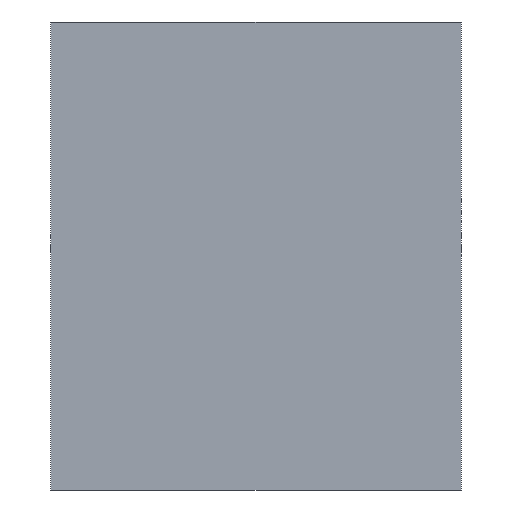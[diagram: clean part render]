
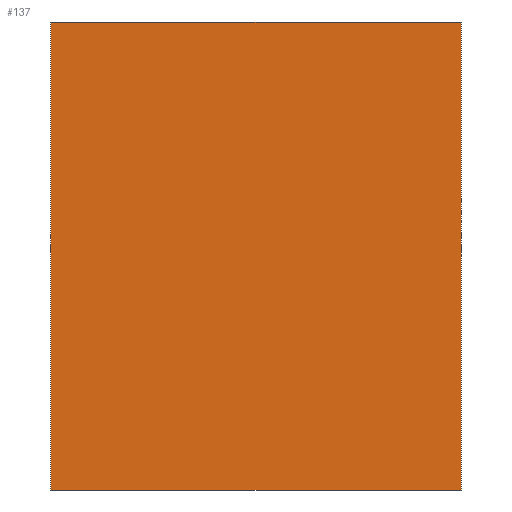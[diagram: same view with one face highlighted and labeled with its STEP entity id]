
A CAD part, front view. The second image highlights one B-rep face of the part: STEP entity #137.
In plain terms, the highlighted planar face has unit normal (0, -1, 0).
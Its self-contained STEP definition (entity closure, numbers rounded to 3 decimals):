
#21 = EDGE_CURVE('',#22,#24,#26,.T.);
#22 = VERTEX_POINT('',#23);
#23 = CARTESIAN_POINT('',(47.5,-122.5,559.5));
#24 = VERTEX_POINT('',#25);
#25 = CARTESIAN_POINT('',(47.5,-122.5,592.));
#26 = SURFACE_CURVE('',#27,(#31,#43),.PCURVE_S1.);
#27 = LINE('',#28,#29);
#28 = CARTESIAN_POINT('',(47.5,-122.5,559.5));
#29 = VECTOR('',#30,1.);
#30 = DIRECTION('',(0.,0.,1.));
#31 = PCURVE('',#32,#37);
#32 = PLANE('',#33);
#33 = AXIS2_PLACEMENT_3D('',#34,#35,#36);
#34 = CARTESIAN_POINT('',(47.5,-122.5,559.5));
#35 = DIRECTION('',(1.,0.,-0.));
#36 = DIRECTION('',(0.,0.,1.));
#37 = DEFINITIONAL_REPRESENTATION('',(#38),#42);
#38 = LINE('',#39,#40);
#39 = CARTESIAN_POINT('',(0.,0.));
#40 = VECTOR('',#41,1.);
#41 = DIRECTION('',(1.,0.));
#42 = ( GEOMETRIC_REPRESENTATION_CONTEXT(2) 
PARAMETRIC_REPRESENTATION_CONTEXT() REPRESENTATION_CONTEXT('2D SPACE',''
  ) );
#43 = PCURVE('',#44,#49);
#44 = PLANE('',#45);
#45 = AXIS2_PLACEMENT_3D('',#46,#47,#48);
#46 = CARTESIAN_POINT('',(47.5,-122.5,559.5));
#47 = DIRECTION('',(-0.,1.,0.));
#48 = DIRECTION('',(0.,0.,1.));
#49 = DEFINITIONAL_REPRESENTATION('',(#50),#54);
#50 = LINE('',#51,#52);
#51 = CARTESIAN_POINT('',(0.,0.));
#52 = VECTOR('',#53,1.);
#53 = DIRECTION('',(1.,0.));
#54 = ( GEOMETRIC_REPRESENTATION_CONTEXT(2) 
PARAMETRIC_REPRESENTATION_CONTEXT() REPRESENTATION_CONTEXT('2D SPACE',''
  ) );
#72 = PLANE('',#73);
#73 = AXIS2_PLACEMENT_3D('',#74,#75,#76);
#74 = CARTESIAN_POINT('',(47.5,-122.5,559.5));
#75 = DIRECTION('',(0.,0.,1.));
#76 = DIRECTION('',(1.,0.,-0.));
#126 = PLANE('',#127);
#127 = AXIS2_PLACEMENT_3D('',#128,#129,#130);
#128 = CARTESIAN_POINT('',(47.5,-122.5,592.));
#129 = DIRECTION('',(0.,0.,1.));
#130 = DIRECTION('',(1.,0.,-0.));
#137 = ADVANCED_FACE('',(#138),#44,.F.);
#138 = FACE_BOUND('',#139,.F.);
#139 = EDGE_LOOP('',(#140,#163,#164,#187));
#140 = ORIENTED_EDGE('',*,*,#141,.F.);
#141 = EDGE_CURVE('',#22,#142,#144,.T.);
#142 = VERTEX_POINT('',#143);
#143 = CARTESIAN_POINT('',(76.,-122.5,559.5));
#144 = SURFACE_CURVE('',#145,(#149,#156),.PCURVE_S1.);
#145 = LINE('',#146,#147);
#146 = CARTESIAN_POINT('',(47.5,-122.5,559.5));
#147 = VECTOR('',#148,1.);
#148 = DIRECTION('',(1.,0.,-0.));
#149 = PCURVE('',#44,#150);
#150 = DEFINITIONAL_REPRESENTATION('',(#151),#155);
#151 = LINE('',#152,#153);
#152 = CARTESIAN_POINT('',(0.,0.));
#153 = VECTOR('',#154,1.);
#154 = DIRECTION('',(0.,1.));
#155 = ( GEOMETRIC_REPRESENTATION_CONTEXT(2) 
PARAMETRIC_REPRESENTATION_CONTEXT() REPRESENTATION_CONTEXT('2D SPACE',''
  ) );
#156 = PCURVE('',#72,#157);
#157 = DEFINITIONAL_REPRESENTATION('',(#158),#162);
#158 = LINE('',#159,#160);
#159 = CARTESIAN_POINT('',(0.,0.));
#160 = VECTOR('',#161,1.);
#161 = DIRECTION('',(1.,0.));
#162 = ( GEOMETRIC_REPRESENTATION_CONTEXT(2) 
PARAMETRIC_REPRESENTATION_CONTEXT() REPRESENTATION_CONTEXT('2D SPACE',''
  ) );
#163 = ORIENTED_EDGE('',*,*,#21,.T.);
#164 = ORIENTED_EDGE('',*,*,#165,.T.);
#165 = EDGE_CURVE('',#24,#166,#168,.T.);
#166 = VERTEX_POINT('',#167);
#167 = CARTESIAN_POINT('',(76.,-122.5,592.));
#168 = SURFACE_CURVE('',#169,(#173,#180),.PCURVE_S1.);
#169 = LINE('',#170,#171);
#170 = CARTESIAN_POINT('',(47.5,-122.5,592.));
#171 = VECTOR('',#172,1.);
#172 = DIRECTION('',(1.,0.,-0.));
#173 = PCURVE('',#44,#174);
#174 = DEFINITIONAL_REPRESENTATION('',(#175),#179);
#175 = LINE('',#176,#177);
#176 = CARTESIAN_POINT('',(32.5,0.));
#177 = VECTOR('',#178,1.);
#178 = DIRECTION('',(0.,1.));
#179 = ( GEOMETRIC_REPRESENTATION_CONTEXT(2) 
PARAMETRIC_REPRESENTATION_CONTEXT() REPRESENTATION_CONTEXT('2D SPACE',''
  ) );
#180 = PCURVE('',#126,#181);
#181 = DEFINITIONAL_REPRESENTATION('',(#182),#186);
#182 = LINE('',#183,#184);
#183 = CARTESIAN_POINT('',(0.,0.));
#184 = VECTOR('',#185,1.);
#185 = DIRECTION('',(1.,0.));
#186 = ( GEOMETRIC_REPRESENTATION_CONTEXT(2) 
PARAMETRIC_REPRESENTATION_CONTEXT() REPRESENTATION_CONTEXT('2D SPACE',''
  ) );
#187 = ORIENTED_EDGE('',*,*,#188,.F.);
#188 = EDGE_CURVE('',#142,#166,#189,.T.);
#189 = SURFACE_CURVE('',#190,(#194,#201),.PCURVE_S1.);
#190 = LINE('',#191,#192);
#191 = CARTESIAN_POINT('',(76.,-122.5,559.5));
#192 = VECTOR('',#193,1.);
#193 = DIRECTION('',(0.,0.,1.));
#194 = PCURVE('',#44,#195);
#195 = DEFINITIONAL_REPRESENTATION('',(#196),#200);
#196 = LINE('',#197,#198);
#197 = CARTESIAN_POINT('',(0.,28.5));
#198 = VECTOR('',#199,1.);
#199 = DIRECTION('',(1.,0.));
#200 = ( GEOMETRIC_REPRESENTATION_CONTEXT(2) 
PARAMETRIC_REPRESENTATION_CONTEXT() REPRESENTATION_CONTEXT('2D SPACE',''
  ) );
#201 = PCURVE('',#202,#207);
#202 = PLANE('',#203);
#203 = AXIS2_PLACEMENT_3D('',#204,#205,#206);
#204 = CARTESIAN_POINT('',(76.,-122.5,559.5));
#205 = DIRECTION('',(1.,0.,-0.));
#206 = DIRECTION('',(0.,0.,1.));
#207 = DEFINITIONAL_REPRESENTATION('',(#208),#212);
#208 = LINE('',#209,#210);
#209 = CARTESIAN_POINT('',(0.,0.));
#210 = VECTOR('',#211,1.);
#211 = DIRECTION('',(1.,0.));
#212 = ( GEOMETRIC_REPRESENTATION_CONTEXT(2) 
PARAMETRIC_REPRESENTATION_CONTEXT() REPRESENTATION_CONTEXT('2D SPACE',''
  ) );
